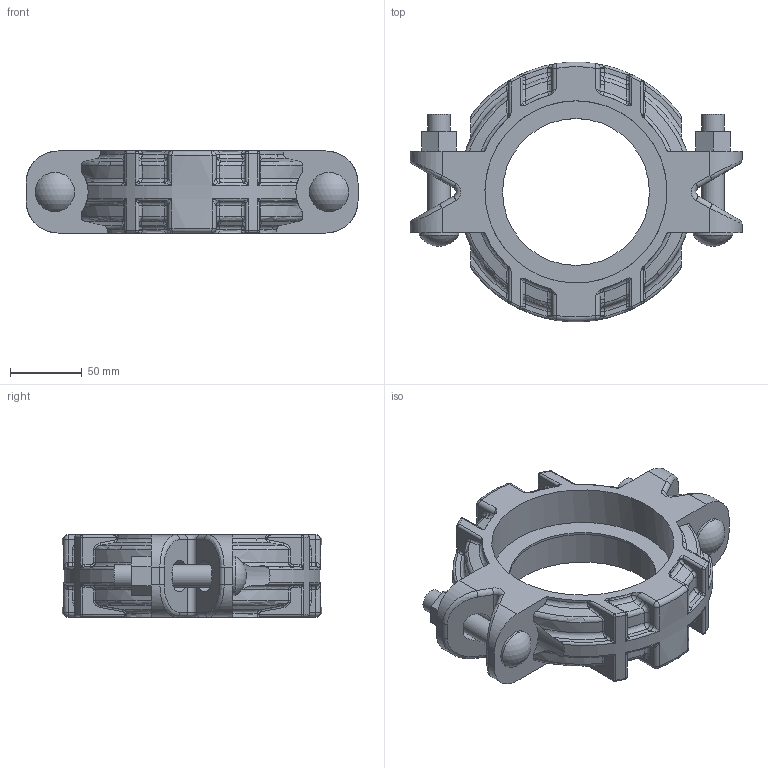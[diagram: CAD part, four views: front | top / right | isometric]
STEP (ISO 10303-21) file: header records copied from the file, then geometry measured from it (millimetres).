
FILE_DESCRIPTION(/* description */ ('VIC COUPLING FLEXIBLE STYLE XL77','CAx-IF Rec.Pracs.---Representation and Presentation of Product Manufacturing Information (PMI)---4.0---2014-10-13'),/* implementation_level */ '2;1');
FILE_NAME(/* name */ 'C:\Users\kkamble\AppData\Roaming\Autodesk\ApplicationPlugins\Back Up\Victaulic_IPS-XL_Coupling Flexible Transition_Style XL77 (XLGxOGS)\Victaulic_IPS-XL_Coupling Flexible Transition_Style XL77 (XLGxOGS)_4 (100).stp',/* time_stamp */ '2020-08-05T13:48:15+05:00',/* author */ ('jheald'),/* organization */ ('Victaulic'),/* preprocessor_version */ 'ST-DEVELOPER v17.2',/* originating_system */ 'Autodesk Inventor 2019',/* authorisation */ '');
FILE_SCHEMA (('AP242_MANAGED_MODEL_BASED_3D_ENGINEERING_MIM_LF { 1 0 10303 442 1 1 4 }'));
Length unit declared in the file: inch
Products named in the file (1): XL77-04.0
Bounding box: 231.37 x 180.86 x 57.15 mm (x, y, z)
Volume: 754076.9 mm3; surface area: 114520 mm2
Topology: 1 solids, 1 shells, 579 faces, 1382 edges, 793 vertices
Faces by surface type: cylinder 189, bspline 152, torus 96, plane 84, sphere 42, cone 16
Full cylindrical faces by diameter (mm): 15.875 x4, 27.381 x2, 102.394 x1, 114.3 x1, 127 x1
Entity records: 22459 total; most frequent: CARTESIAN_POINT 9291, ORIENTED_EDGE 2716, DIRECTION 2489, EDGE_CURVE 1358, AXIS2_PLACEMENT_3D 1054, VERTEX_POINT 793, EDGE_LOOP 597, CIRCLE 589
